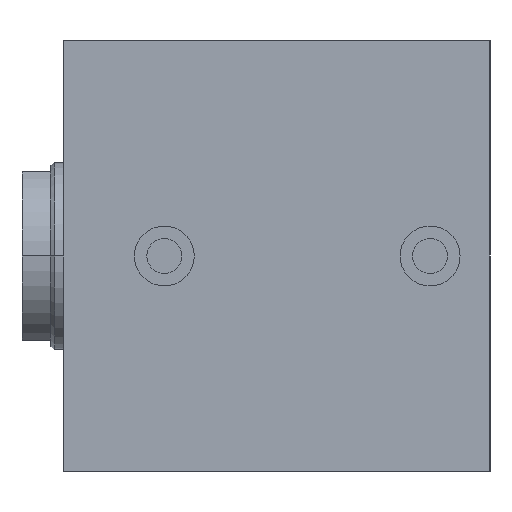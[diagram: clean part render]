
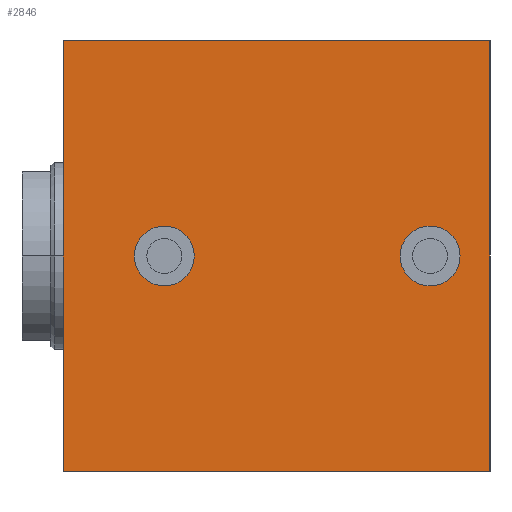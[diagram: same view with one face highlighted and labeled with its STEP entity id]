
A CAD part, left-side view. The second image highlights one B-rep face of the part: STEP entity #2846.
In plain terms, the highlighted planar face has unit normal (-1, 0, 0).
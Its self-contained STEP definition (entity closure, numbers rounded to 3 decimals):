
#82 = CARTESIAN_POINT ( 'NONE',  ( -150., 174., 16. ) ) ;
#93 = VERTEX_POINT ( 'NONE', #82 ) ;
#140 = DIRECTION ( 'NONE',  ( -1., 0., 0. ) ) ;
#231 = CARTESIAN_POINT ( 'NONE',  ( -150., 128., 115. ) ) ;
#269 = VERTEX_POINT ( 'NONE', #2025 ) ;
#293 = ORIENTED_EDGE ( 'NONE', *, *, #2216, .F. ) ;
#312 = CIRCLE ( 'NONE', #1404, 16. ) ;
#439 = DIRECTION ( 'NONE',  ( -1., 0., 0. ) ) ;
#496 = FACE_OUTER_BOUND ( 'NONE', #2331, .T. ) ;
#504 = DIRECTION ( 'NONE',  ( 0., -1., 0. ) ) ;
#568 = VECTOR ( 'NONE', #572, 1000. ) ;
#572 = DIRECTION ( 'NONE',  ( 0., 0., 1. ) ) ;
#582 = FACE_BOUND ( 'NONE', #2179, .T. ) ;
#607 = VECTOR ( 'NONE', #1238, 1000. ) ;
#643 = AXIS2_PLACEMENT_3D ( 'NONE', #669, #2616, #968 ) ;
#669 = CARTESIAN_POINT ( 'NONE',  ( -150., 174., 0. ) ) ;
#673 = ORIENTED_EDGE ( 'NONE', *, *, #1545, .T. ) ;
#758 = EDGE_CURVE ( 'NONE', #1857, #269, #1571, .T. ) ;
#774 = VERTEX_POINT ( 'NONE', #3220 ) ;
#824 = PLANE ( 'NONE',  #3492 ) ;
#940 = VECTOR ( 'NONE', #2853, 1000. ) ;
#952 = EDGE_CURVE ( 'NONE', #269, #774, #3018, .T. ) ;
#968 = DIRECTION ( 'NONE',  ( 0., 0., 1. ) ) ;
#1058 = ORIENTED_EDGE ( 'NONE', *, *, #952, .F. ) ;
#1082 = DIRECTION ( 'NONE',  ( -1., 0., 0. ) ) ;
#1206 = CARTESIAN_POINT ( 'NONE',  ( -150., 228., -115. ) ) ;
#1212 = EDGE_CURVE ( 'NONE', #2026, #774, #2053, .T. ) ;
#1238 = DIRECTION ( 'NONE',  ( 0., -1., 0. ) ) ;
#1312 = CARTESIAN_POINT ( 'NONE',  ( -150., 228., -115. ) ) ;
#1325 = ORIENTED_EDGE ( 'NONE', *, *, #1212, .T. ) ;
#1386 = ORIENTED_EDGE ( 'NONE', *, *, #758, .F. ) ;
#1404 = AXIS2_PLACEMENT_3D ( 'NONE', #1822, #140, #2099 ) ;
#1447 = VECTOR ( 'NONE', #504, 1000. ) ;
#1545 = EDGE_CURVE ( 'NONE', #1857, #2026, #2087, .T. ) ;
#1555 = VERTEX_POINT ( 'NONE', #3480 ) ;
#1571 = LINE ( 'NONE', #1206, #940 ) ;
#1652 = DIRECTION ( 'NONE',  ( 0., 0., -1. ) ) ;
#1716 = AXIS2_PLACEMENT_3D ( 'NONE', #2718, #1082, #3009 ) ;
#1822 = CARTESIAN_POINT ( 'NONE',  ( -150., 32., 0. ) ) ;
#1857 = VERTEX_POINT ( 'NONE', #1312 ) ;
#1903 = VERTEX_POINT ( 'NONE', #2424 ) ;
#1919 = EDGE_CURVE ( 'NONE', #93, #1903, #3267, .T. ) ;
#2025 = CARTESIAN_POINT ( 'NONE',  ( -150., 228., 115. ) ) ;
#2026 = VERTEX_POINT ( 'NONE', #3320 ) ;
#2053 = LINE ( 'NONE', #2525, #568 ) ;
#2075 = CARTESIAN_POINT ( 'NONE',  ( -150., 128., -115. ) ) ;
#2087 = LINE ( 'NONE', #2075, #607 ) ;
#2099 = DIRECTION ( 'NONE',  ( 0., 0., 1. ) ) ;
#2116 = CARTESIAN_POINT ( 'NONE',  ( -150., 32., 0. ) ) ;
#2179 = EDGE_LOOP ( 'NONE', ( #3027, #293 ) ) ;
#2216 = EDGE_CURVE ( 'NONE', #1903, #93, #2817, .T. ) ;
#2331 = EDGE_LOOP ( 'NONE', ( #1325, #1058, #1386, #673 ) ) ;
#2335 = EDGE_CURVE ( 'NONE', #3014, #1555, #312, .T. ) ;
#2399 = DIRECTION ( 'NONE',  ( 0., 0., 1. ) ) ;
#2424 = CARTESIAN_POINT ( 'NONE',  ( -150., 174., -16. ) ) ;
#2511 = CIRCLE ( 'NONE', #3194, 16. ) ;
#2525 = CARTESIAN_POINT ( 'NONE',  ( -150., 0., -115. ) ) ;
#2553 = ORIENTED_EDGE ( 'NONE', *, *, #2335, .F. ) ;
#2577 = CARTESIAN_POINT ( 'NONE',  ( -150., 32., -16. ) ) ;
#2595 = ORIENTED_EDGE ( 'NONE', *, *, #2681, .F. ) ;
#2616 = DIRECTION ( 'NONE',  ( -1., 0., 0. ) ) ;
#2681 = EDGE_CURVE ( 'NONE', #1555, #3014, #2511, .T. ) ;
#2718 = CARTESIAN_POINT ( 'NONE',  ( -150., 174., 0. ) ) ;
#2722 = FACE_BOUND ( 'NONE', #3185, .T. ) ;
#2817 = CIRCLE ( 'NONE', #643, 16. ) ;
#2846 = ADVANCED_FACE ( 'NONE', ( #2722, #582, #496 ), #824, .F. ) ;
#2853 = DIRECTION ( 'NONE',  ( 0., 0., 1. ) ) ;
#3009 = DIRECTION ( 'NONE',  ( 0., 0., 1. ) ) ;
#3014 = VERTEX_POINT ( 'NONE', #2577 ) ;
#3018 = LINE ( 'NONE', #231, #1447 ) ;
#3027 = ORIENTED_EDGE ( 'NONE', *, *, #1919, .F. ) ;
#3185 = EDGE_LOOP ( 'NONE', ( #2595, #2553 ) ) ;
#3194 = AXIS2_PLACEMENT_3D ( 'NONE', #2116, #439, #2399 ) ;
#3220 = CARTESIAN_POINT ( 'NONE',  ( -150., 0., 115. ) ) ;
#3267 = CIRCLE ( 'NONE', #1716, 16. ) ;
#3305 = CARTESIAN_POINT ( 'NONE',  ( -150., 128., -115. ) ) ;
#3318 = DIRECTION ( 'NONE',  ( 1., 0., 0. ) ) ;
#3320 = CARTESIAN_POINT ( 'NONE',  ( -150., 0., -115. ) ) ;
#3480 = CARTESIAN_POINT ( 'NONE',  ( -150., 32., 16. ) ) ;
#3492 = AXIS2_PLACEMENT_3D ( 'NONE', #3305, #3318, #1652 ) ;
